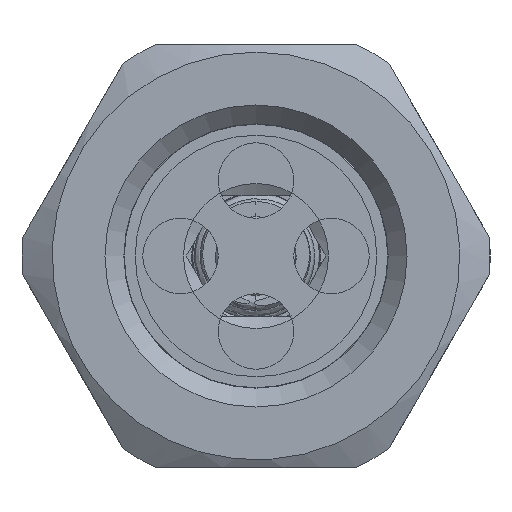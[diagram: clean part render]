
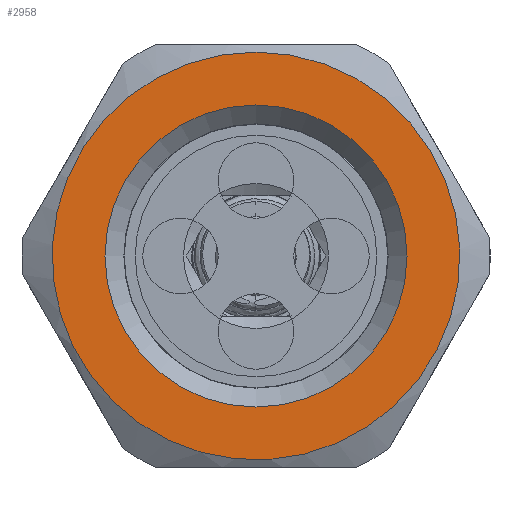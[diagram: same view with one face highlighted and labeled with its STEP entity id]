
A CAD part, left-side view. The second image highlights one B-rep face of the part: STEP entity #2958.
In plain terms, the highlighted planar face has unit normal (-1, 0, 0).
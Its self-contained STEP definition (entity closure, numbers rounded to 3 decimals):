
#69 = FACE_BOUND ( 'NONE', #3765, .T. ) ;
#522 = AXIS2_PLACEMENT_3D ( 'NONE', #5322, #2290, #5377 ) ;
#597 = ORIENTED_EDGE ( 'NONE', *, *, #3712, .T. ) ;
#937 = PLANE ( 'NONE',  #3094 ) ;
#995 = DIRECTION ( 'NONE',  ( 0., 0., -1. ) ) ;
#1695 = CARTESIAN_POINT ( 'NONE',  ( 0., 0., 0. ) ) ;
#2136 = CARTESIAN_POINT ( 'NONE',  ( 0., 0., 6.75 ) ) ;
#2210 = CIRCLE ( 'NONE', #7401, 5. ) ;
#2290 = DIRECTION ( 'NONE',  ( -1., 0., 0. ) ) ;
#2398 = ORIENTED_EDGE ( 'NONE', *, *, #6184, .F. ) ;
#2455 = CIRCLE ( 'NONE', #522, 6.75 ) ;
#2958 = ADVANCED_FACE ( 'NONE', ( #69, #4775 ), #937, .F. ) ;
#3094 = AXIS2_PLACEMENT_3D ( 'NONE', #4006, #3435, #995 ) ;
#3435 = DIRECTION ( 'NONE',  ( 1., 0., 0. ) ) ;
#3712 = EDGE_CURVE ( 'NONE', #5052, #5052, #2455, .T. ) ;
#3765 = EDGE_LOOP ( 'NONE', ( #2398 ) ) ;
#4006 = CARTESIAN_POINT ( 'NONE',  ( 0., 5., 0. ) ) ;
#4701 = EDGE_LOOP ( 'NONE', ( #597 ) ) ;
#4775 = FACE_OUTER_BOUND ( 'NONE', #4701, .T. ) ;
#5052 = VERTEX_POINT ( 'NONE', #2136 ) ;
#5322 = CARTESIAN_POINT ( 'NONE',  ( 0., 0., 0. ) ) ;
#5377 = DIRECTION ( 'NONE',  ( 0., 0., 1. ) ) ;
#5650 = VERTEX_POINT ( 'NONE', #7198 ) ;
#6184 = EDGE_CURVE ( 'NONE', #5650, #5650, #2210, .T. ) ;
#7198 = CARTESIAN_POINT ( 'NONE',  ( 0., 0., 5. ) ) ;
#7248 = DIRECTION ( 'NONE',  ( -1., 0., 0. ) ) ;
#7306 = DIRECTION ( 'NONE',  ( 0., 0., 1. ) ) ;
#7401 = AXIS2_PLACEMENT_3D ( 'NONE', #1695, #7248, #7306 ) ;
